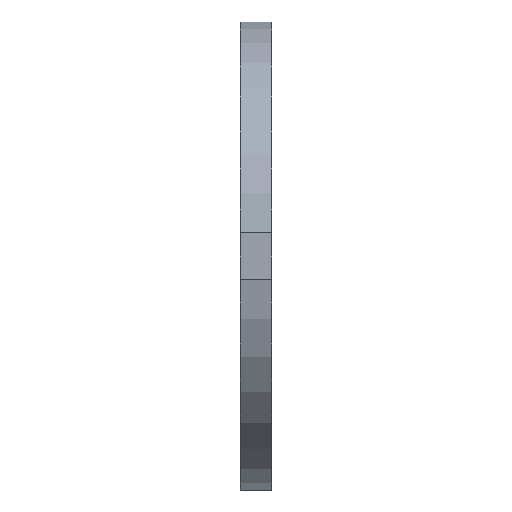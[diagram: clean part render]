
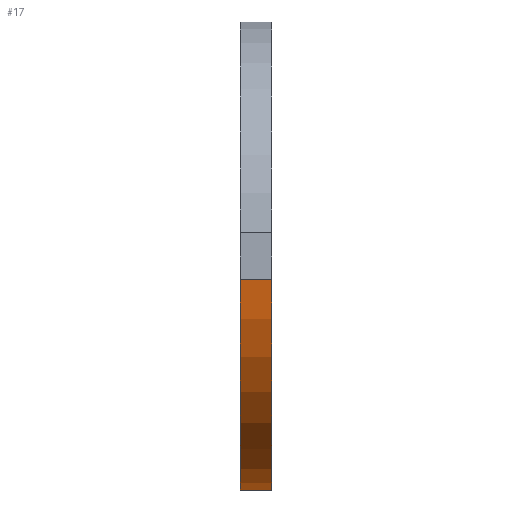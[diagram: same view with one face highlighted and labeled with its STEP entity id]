
A CAD part, front view. The second image highlights one B-rep face of the part: STEP entity #17.
In plain terms, the highlighted cylindrical face has radius 3 mm (diameter 6 mm), a partial arc.
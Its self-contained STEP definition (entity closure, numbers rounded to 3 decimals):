
#17 = ADVANCED_FACE('',(#18),#33,.T.);
#18 = FACE_BOUND('',#19,.T.);
#19 = EDGE_LOOP('',(#20,#60,#88,#117));
#20 = ORIENTED_EDGE('',*,*,#21,.F.);
#21 = EDGE_CURVE('',#22,#24,#26,.T.);
#22 = VERTEX_POINT('',#23);
#23 = CARTESIAN_POINT('',(66.4,22.015,-0.3));
#24 = VERTEX_POINT('',#25);
#25 = CARTESIAN_POINT('',(66.4,27.985,-0.3));
#26 = SURFACE_CURVE('',#27,(#32,#44),.PCURVE_S1.);
#27 = CIRCLE('',#28,3.);
#28 = AXIS2_PLACEMENT_3D('',#29,#30,#31);
#29 = CARTESIAN_POINT('',(66.4,25.,0.));
#30 = DIRECTION('',(1.,0.,-0.));
#31 = DIRECTION('',(-0.,-0.995,-0.1));
#32 = PCURVE('',#33,#38);
#33 = CYLINDRICAL_SURFACE('',#34,3.);
#34 = AXIS2_PLACEMENT_3D('',#35,#36,#37);
#35 = CARTESIAN_POINT('',(66.4,25.,0.));
#36 = DIRECTION('',(1.,-0.,0.));
#37 = DIRECTION('',(0.,-0.,-1.));
#38 = DEFINITIONAL_REPRESENTATION('',(#39),#43);
#39 = LINE('',#40,#41);
#40 = CARTESIAN_POINT('',(4.813,0.));
#41 = VECTOR('',#42,1.);
#42 = DIRECTION('',(1.,0.));
#43 = ( GEOMETRIC_REPRESENTATION_CONTEXT(2) 
PARAMETRIC_REPRESENTATION_CONTEXT() REPRESENTATION_CONTEXT('2D SPACE',''
  ) );
#44 = PCURVE('',#45,#50);
#45 = PLANE('',#46);
#46 = AXIS2_PLACEMENT_3D('',#47,#48,#49);
#47 = CARTESIAN_POINT('',(66.4,25.,0.));
#48 = DIRECTION('',(-1.,-0.,0.));
#49 = DIRECTION('',(0.,0.,1.));
#50 = DEFINITIONAL_REPRESENTATION('',(#51),#59);
#51 = ( BOUNDED_CURVE() B_SPLINE_CURVE(2,(#52,#53,#54,#55,#56,#57,#58),
.UNSPECIFIED.,.T.,.F.) B_SPLINE_CURVE_WITH_KNOTS((1,2,2,2,2,1),(
    -2.094,0.,2.094,4.189,6.283,
8.378),.UNSPECIFIED.) CURVE() GEOMETRIC_REPRESENTATION_ITEM() 
RATIONAL_B_SPLINE_CURVE((1.,0.5,1.,0.5,1.,0.5,1.)) REPRESENTATION_ITEM(
  '') );
#52 = CARTESIAN_POINT('',(-0.3,-2.985));
#53 = CARTESIAN_POINT('',(-5.47,-2.465));
#54 = CARTESIAN_POINT('',(-2.435,1.752));
#55 = CARTESIAN_POINT('',(0.6,5.97));
#56 = CARTESIAN_POINT('',(2.735,1.233));
#57 = CARTESIAN_POINT('',(4.87,-3.505));
#58 = CARTESIAN_POINT('',(-0.3,-2.985));
#59 = ( GEOMETRIC_REPRESENTATION_CONTEXT(2) 
PARAMETRIC_REPRESENTATION_CONTEXT() REPRESENTATION_CONTEXT('2D SPACE',''
  ) );
#60 = ORIENTED_EDGE('',*,*,#61,.F.);
#61 = EDGE_CURVE('',#62,#22,#64,.T.);
#62 = VERTEX_POINT('',#63);
#63 = CARTESIAN_POINT('',(66.,22.015,-0.3));
#64 = SURFACE_CURVE('',#65,(#69,#76),.PCURVE_S1.);
#65 = LINE('',#66,#67);
#66 = CARTESIAN_POINT('',(66.4,22.015,-0.3));
#67 = VECTOR('',#68,1.);
#68 = DIRECTION('',(1.,-0.,0.));
#69 = PCURVE('',#33,#70);
#70 = DEFINITIONAL_REPRESENTATION('',(#71),#75);
#71 = LINE('',#72,#73);
#72 = CARTESIAN_POINT('',(4.813,0.));
#73 = VECTOR('',#74,1.);
#74 = DIRECTION('',(0.,1.));
#75 = ( GEOMETRIC_REPRESENTATION_CONTEXT(2) 
PARAMETRIC_REPRESENTATION_CONTEXT() REPRESENTATION_CONTEXT('2D SPACE',''
  ) );
#76 = PCURVE('',#77,#82);
#77 = PLANE('',#78);
#78 = AXIS2_PLACEMENT_3D('',#79,#80,#81);
#79 = CARTESIAN_POINT('',(66.4,18.,-0.3));
#80 = DIRECTION('',(0.,0.,1.));
#81 = DIRECTION('',(1.,0.,0.));
#82 = DEFINITIONAL_REPRESENTATION('',(#83),#87);
#83 = LINE('',#84,#85);
#84 = CARTESIAN_POINT('',(0.,4.015));
#85 = VECTOR('',#86,1.);
#86 = DIRECTION('',(1.,-0.));
#87 = ( GEOMETRIC_REPRESENTATION_CONTEXT(2) 
PARAMETRIC_REPRESENTATION_CONTEXT() REPRESENTATION_CONTEXT('2D SPACE',''
  ) );
#88 = ORIENTED_EDGE('',*,*,#89,.F.);
#89 = EDGE_CURVE('',#90,#62,#92,.T.);
#90 = VERTEX_POINT('',#91);
#91 = CARTESIAN_POINT('',(66.,27.985,-0.3));
#92 = SURFACE_CURVE('',#93,(#98,#105),.PCURVE_S1.);
#93 = CIRCLE('',#94,3.);
#94 = AXIS2_PLACEMENT_3D('',#95,#96,#97);
#95 = CARTESIAN_POINT('',(66.,25.,0.));
#96 = DIRECTION('',(-1.,-0.,0.));
#97 = DIRECTION('',(-0.,0.995,-0.1));
#98 = PCURVE('',#33,#99);
#99 = DEFINITIONAL_REPRESENTATION('',(#100),#104);
#100 = LINE('',#101,#102);
#101 = CARTESIAN_POINT('',(7.754,-0.4));
#102 = VECTOR('',#103,1.);
#103 = DIRECTION('',(-1.,-0.));
#104 = ( GEOMETRIC_REPRESENTATION_CONTEXT(2) 
PARAMETRIC_REPRESENTATION_CONTEXT() REPRESENTATION_CONTEXT('2D SPACE',''
  ) );
#105 = PCURVE('',#106,#111);
#106 = PLANE('',#107);
#107 = AXIS2_PLACEMENT_3D('',#108,#109,#110);
#108 = CARTESIAN_POINT('',(66.,25.,0.));
#109 = DIRECTION('',(-1.,-0.,0.));
#110 = DIRECTION('',(0.,0.,1.));
#111 = DEFINITIONAL_REPRESENTATION('',(#112),#116);
#112 = CIRCLE('',#113,3.);
#113 = AXIS2_PLACEMENT_2D('',#114,#115);
#114 = CARTESIAN_POINT('',(0.,0.));
#115 = DIRECTION('',(-0.1,0.995));
#116 = ( GEOMETRIC_REPRESENTATION_CONTEXT(2) 
PARAMETRIC_REPRESENTATION_CONTEXT() REPRESENTATION_CONTEXT('2D SPACE',''
  ) );
#117 = ORIENTED_EDGE('',*,*,#118,.T.);
#118 = EDGE_CURVE('',#90,#24,#119,.T.);
#119 = SURFACE_CURVE('',#120,(#124,#131),.PCURVE_S1.);
#120 = LINE('',#121,#122);
#121 = CARTESIAN_POINT('',(66.4,27.985,-0.3));
#122 = VECTOR('',#123,1.);
#123 = DIRECTION('',(1.,-0.,0.));
#124 = PCURVE('',#33,#125);
#125 = DEFINITIONAL_REPRESENTATION('',(#126),#130);
#126 = LINE('',#127,#128);
#127 = CARTESIAN_POINT('',(7.754,0.));
#128 = VECTOR('',#129,1.);
#129 = DIRECTION('',(0.,1.));
#130 = ( GEOMETRIC_REPRESENTATION_CONTEXT(2) 
PARAMETRIC_REPRESENTATION_CONTEXT() REPRESENTATION_CONTEXT('2D SPACE',''
  ) );
#131 = PCURVE('',#132,#137);
#132 = PLANE('',#133);
#133 = AXIS2_PLACEMENT_3D('',#134,#135,#136);
#134 = CARTESIAN_POINT('',(66.4,18.,-0.3));
#135 = DIRECTION('',(0.,0.,1.));
#136 = DIRECTION('',(1.,0.,0.));
#137 = DEFINITIONAL_REPRESENTATION('',(#138),#142);
#138 = LINE('',#139,#140);
#139 = CARTESIAN_POINT('',(0.,9.985));
#140 = VECTOR('',#141,1.);
#141 = DIRECTION('',(1.,-0.));
#142 = ( GEOMETRIC_REPRESENTATION_CONTEXT(2) 
PARAMETRIC_REPRESENTATION_CONTEXT() REPRESENTATION_CONTEXT('2D SPACE',''
  ) );
